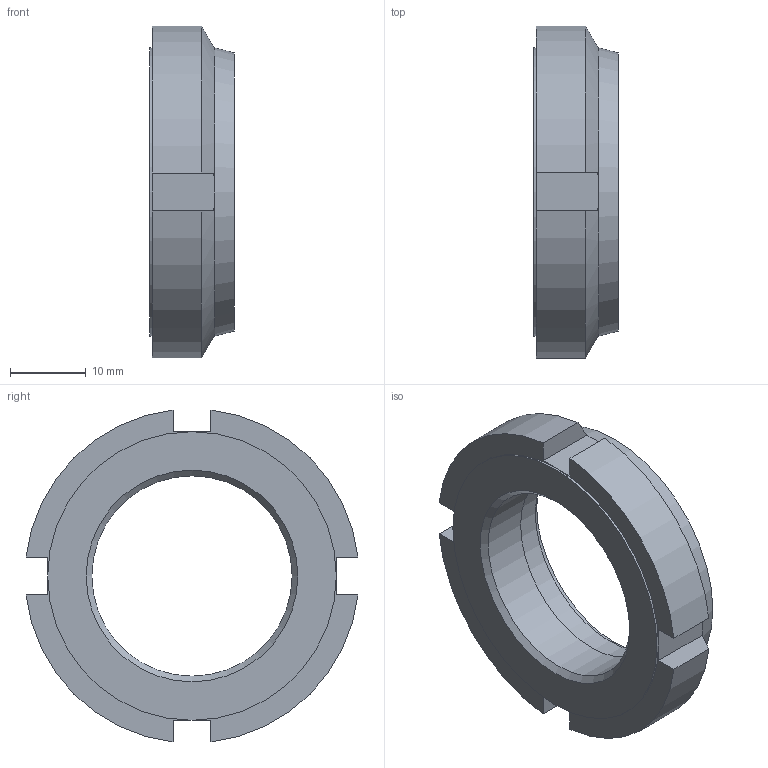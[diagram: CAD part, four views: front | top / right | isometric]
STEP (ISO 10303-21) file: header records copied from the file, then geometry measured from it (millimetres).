
FILE_DESCRIPTION( ( 'STEP AP203' ), '1' );
FILE_NAME( 'C:/Temp/Ganter_Step_05_03_2020/data/3_2/gn1804_1/Slotted locknut self-locking GN 1804.1-M28x1,5.stp', '2020-03-13T05:25:16', ( 'License CC BY-ND 4.0' ), ( 'CADENAS' ), ' ', 'PARTsolutions', ' ' );
FILE_SCHEMA( ( 'CONFIG_CONTROL_DESIGN' ) );
Length unit declared in the file: millimetre
Products named in the file (1): _Slotted locknut self-locking GN 1804.1-M28x1,5
Bounding box: 11.1 x 43.72 x 43.72 mm (x, y, z)
Volume: 8528.1 mm3; surface area: 4151 mm2
Topology: 1 solids, 1 shells, 34 faces, 79 edges, 49 vertices
Faces by surface type: plane 20, cylinder 8, cone 6
Full cylindrical faces by diameter (mm): 26.376 x1, 27.5 x1, 29 x1, 38 x1
Entity records: 994 total; most frequent: CARTESIAN_POINT 205, DIRECTION 152, ORIENTED_EDGE 146, EDGE_CURVE 73, AXIS2_PLACEMENT_3D 60, VERTEX_POINT 49, EDGE_LOOP 44, FACE_OUTER_BOUND 38
